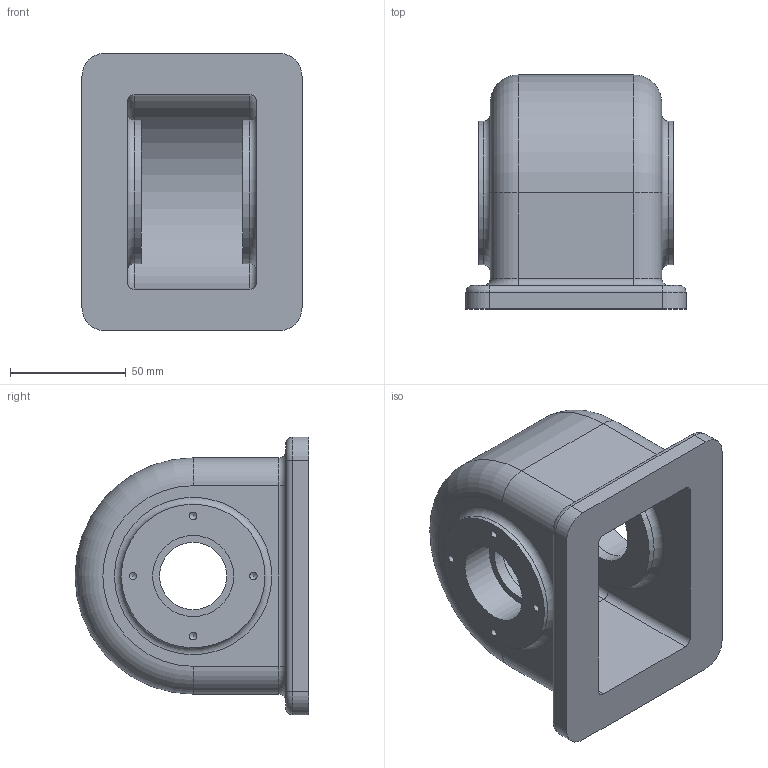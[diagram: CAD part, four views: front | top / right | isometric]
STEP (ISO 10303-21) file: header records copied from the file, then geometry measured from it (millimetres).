
FILE_DESCRIPTION(/* description */ (''),/* implementation_level */ '2;1');
FILE_NAME(/* name */ 'C:\Users\mdu3-26\Desktop\380723E1022\380723E1022-본체.stp',/* time_stamp */ '2018-07-07T17:09:24+09:00',/* author */ ('mdu3-26'),/* organization */ (''),/* preprocessor_version */ 'ST-DEVELOPER v16.1',/* originating_system */ 'Autodesk Inventor 2016',/* authorisation */ '');
FILE_SCHEMA (('AUTOMOTIVE_DESIGN { 1 0 10303 214 3 1 1 }'));
Length unit declared in the file: millimetre
Products named in the file (1): 부품3D
Bounding box: 95 x 101 x 120 mm (x, y, z)
Volume: 336762.9 mm3; surface area: 77432.8 mm2
Topology: 1 solids, 1 shells, 82 faces, 180 edges, 108 vertices
Faces by surface type: cylinder 38, plane 20, torus 16, cone 8
Full cylindrical faces by diameter (mm): 3.242 x8, 29 x1, 35 x1, 36 x1, 42 x1, 62 x4
Entity records: 2068 total; most frequent: DIRECTION 402, CARTESIAN_POINT 327, ORIENTED_EDGE 288, AXIS2_PLACEMENT_3D 175, EDGE_CURVE 144, EDGE_LOOP 122, VERTEX_POINT 100, CIRCLE 92
